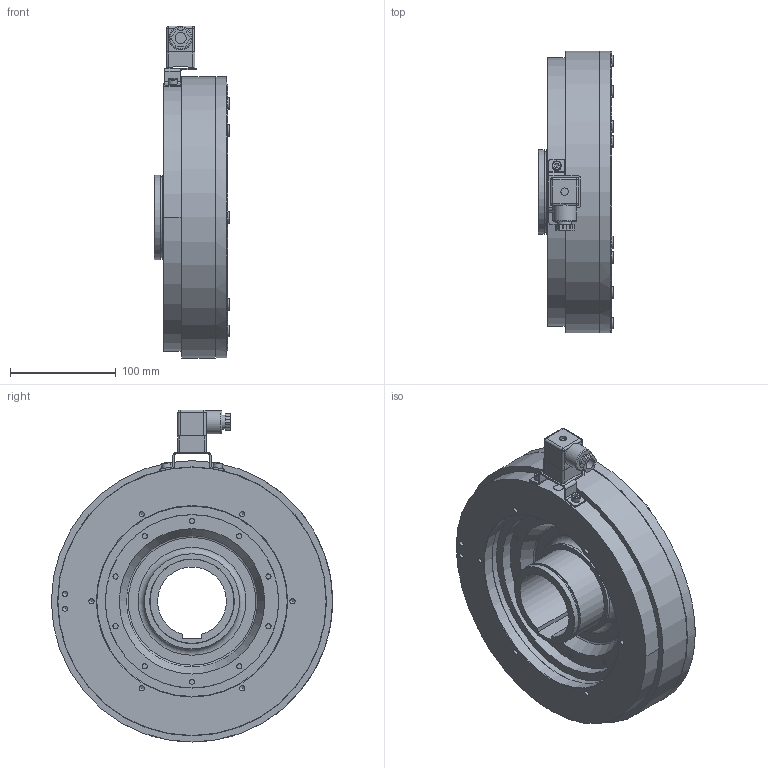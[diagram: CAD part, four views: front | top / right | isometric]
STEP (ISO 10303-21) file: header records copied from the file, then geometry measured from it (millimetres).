
FILE_DESCRIPTION(/* description */ (''),/* implementation_level */ '2;1');
FILE_NAME(/* name */ 'X:\INVENTOR\DISEGNI\08_Freni_Friz_Elettmag_Monodisco\08_26 EMSL_DF\EMSL_DF STEP\08_26_260_21 EMSL260_DF-BM_S@STEP.stp',/* time_stamp */ '2018-04-24T08:28:41+02:00',/* author */ ('stefano'),/* organization */ (''),/* preprocessor_version */ 'ST-DEVELOPER v17',/* originating_system */ 'Autodesk Inventor 2018',/* authorisation */ '');
FILE_SCHEMA (('AUTOMOTIVE_DESIGN { 1 0 10303 214 3 1 1 }'));
Length unit declared in the file: millimetre
Products named in the file (1): 08_26_260_21 EMSL260_DF-BM - Spina_Substitute_1
Bounding box: 71.5 x 266 x 313.9 mm (x, y, z)
Volume: 2125196.6 mm3; surface area: 445328.5 mm2
Topology: 4 solids, 4 shells, 671 faces, 1920 edges, 1290 vertices
Faces by surface type: cylinder 325, plane 229, cone 94, torus 19, sphere 4
Full cylindrical faces by diameter (mm): 2 x13, 4.917 x18, 5 x2, 5.25 x2, 7 x13, 7.1 x24, 8.1 x6, 8.5 x2, 9 x1, 10 x10, 10.5 x1, 11 x36, 13 x1, 22 x1, 76.5 x1, 80 x2, 90 x1, 138 x1, 163.8 x1, 164 x1, 166 x1, 170 x1, 180 x2, 180.6 x1, 194 x1, 243 x1, 254.3 x1, 266 x2
Entity records: 23321 total; most frequent: CARTESIAN_POINT 4286, DIRECTION 4163, ORIENTED_EDGE 3776, EDGE_CURVE 1888, AXIS2_PLACEMENT_3D 1710, VERTEX_POINT 1294, CIRCLE 1038, EDGE_LOOP 842
